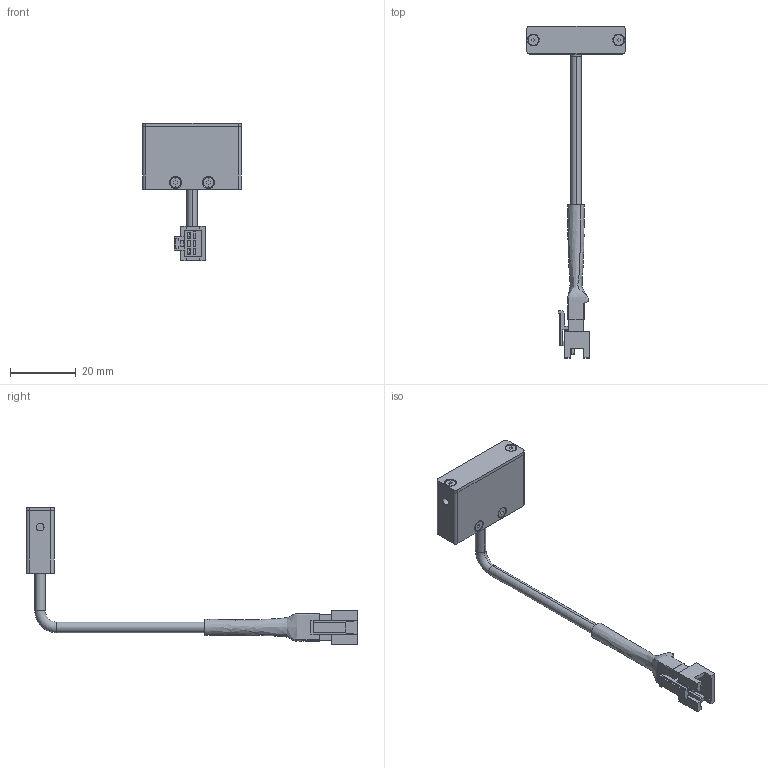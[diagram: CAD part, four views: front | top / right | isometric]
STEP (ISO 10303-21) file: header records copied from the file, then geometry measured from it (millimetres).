
FILE_DESCRIPTION (( 'STEP AP203' ), '1' );
FILE_NAME ('VBAU-193W + PZ-VBAU193.STEP', '2025-04-22T05:11:47', ( '' ), ( '' ), 'SwSTEP 2.0', 'SolidWorks 2020', '' );
FILE_SCHEMA (( 'CONFIG_CONTROL_DESIGN' ));
Length unit declared in the file: millimetre
Products named in the file (13): TUBE_3P; VBAU193W _ TMVBAU001D304A_上蓋 _ L1481A-M00400; SM2.5-3P_TUBE_SET + 24awg  3.2mm OD x 2C; SM2.5-3P_TUBE_SET; VBAU-193W + PZ-VBAU193; PZ-VBAU193 _ TMPZVBAU001D101A _ 反射件外殼 _ T1291A-M00100; 2601-3H; VBAU193W _ TMVBAU001D301A_基座 _ L1481A-M00100; 24AWG 纜線; M1.6 X 3 ↖繷 ずせà ぃ葵 脸捣; PZ-VBAU193 _ TMPZVBAU001D102A _ 反射件底座 _ T1291A-M00200; M1.6 X 8 ↖繷 ずせà ぃ葵 脸捣; VBAU193W _ TMVBAU001D302A_底座 _ L1481A-M00200
Assembly tree (21 placements, depth 4):
  VBAU-193W + PZ-VBAU193
    VBAU193W _ TMVBAU001D302A_底座 _ L1481A-M00200
    VBAU193W _ TMVBAU001D304A_上蓋 _ L1481A-M00400
    M1.6 X 8 ↖繷 ずせà ぃ葵 脸捣  x2
    M1.6 X 3 ↖繷 ずせà ぃ葵 脸捣  x8
    SM2.5-3P_TUBE_SET + 24awg  3.2mm OD x 2C
      SM2.5-3P_TUBE_SET
        2601-3H
        TUBE_3P
      24AWG 纜線
      TUBE_3P
    VBAU193W _ TMVBAU001D301A_基座 _ L1481A-M00100
    PZ-VBAU193 _ TMPZVBAU001D101A _ 反射件外殼 _ T1291A-M00100
    PZ-VBAU193 _ TMPZVBAU001D102A _ 反射件底座 _ T1291A-M00200
Bounding box: 30 x 100.8 x 41.75 mm (x, y, z)
Volume: 7077.7 mm3; surface area: 9476.2 mm2
Topology: 21 solids, 21 shells, 450 faces, 1099 edges, 708 vertices
Faces by surface type: plane 262, cylinder 122, cone 60, bspline 4, torus 2
Entity records: 12300 total; most frequent: CARTESIAN_POINT 2781, DIRECTION 1677, ORIENTED_EDGE 1598, EDGE_CURVE 799, VECTOR 585, LINE 585, AXIS2_PLACEMENT_3D 546, VERTEX_POINT 522
